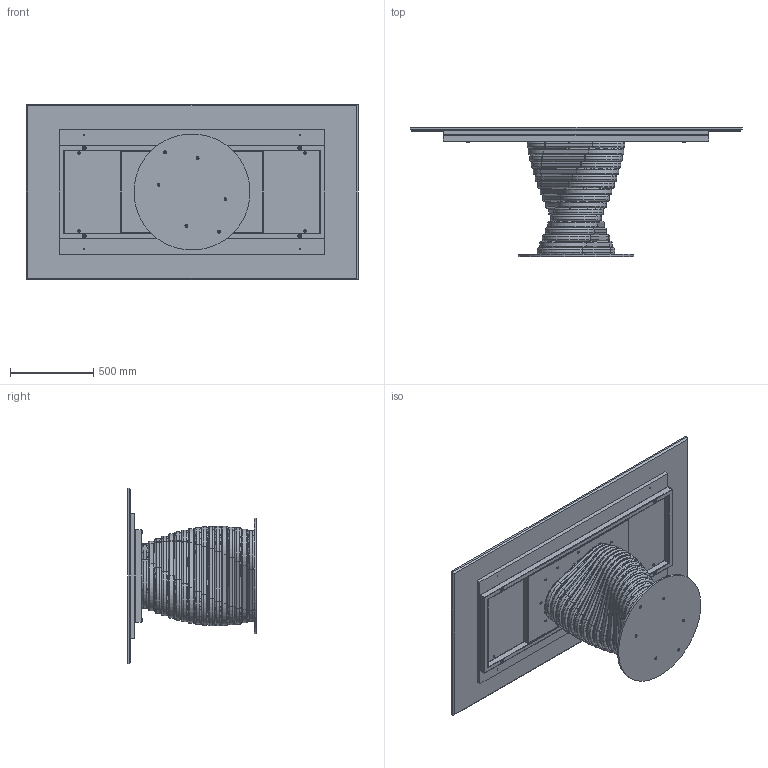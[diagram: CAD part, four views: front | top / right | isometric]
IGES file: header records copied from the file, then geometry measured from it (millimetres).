
Start section: SolidWorks IGES file using analytic representation for surfaces
Global section: file name: Y:\eforma\TECNICO\SOLIDWORKS\E-FORMA\1-TAVOLI\ROTOLO\02 parts\RO21M.IGS; native system: SolidWorks 2022; preprocessor: SolidWorks 2022; author: eforma.tech; date: 240807.153551; units: millimetre
Bounding box: 2000 x 777 x 1060 mm (x, y, z)
Volume: 85246479.9 mm3; surface area: 14698182.4 mm2
Topology: 95 solids, 95 shells, 1714 faces, 4082 edges, 2509 vertices
Faces by surface type: revolution 1046, plane 668
